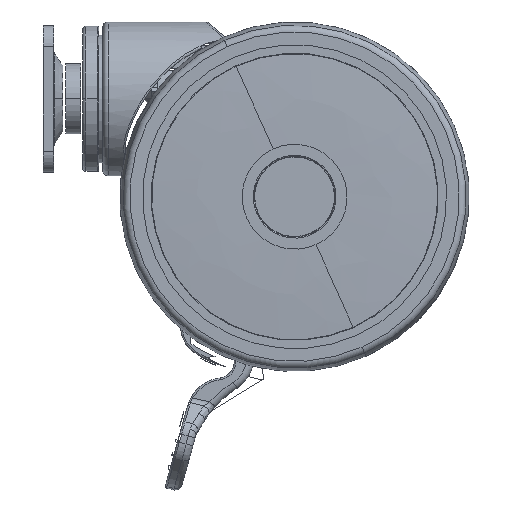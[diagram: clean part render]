
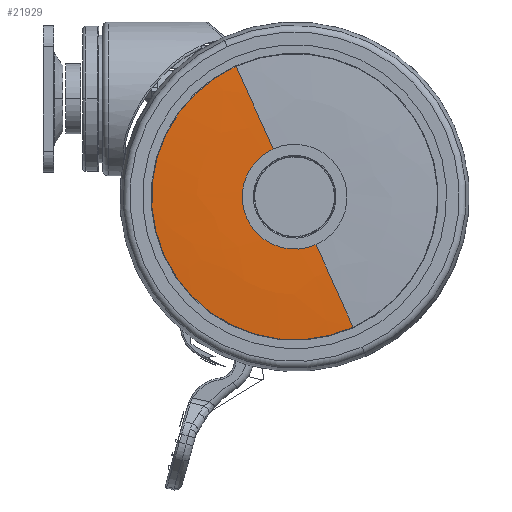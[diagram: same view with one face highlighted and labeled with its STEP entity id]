
A CAD part, left-side view. The second image highlights one B-rep face of the part: STEP entity #21929.
In plain terms, the highlighted free-form (B-spline) face has degree [3, 3] with [7, 4] control points.
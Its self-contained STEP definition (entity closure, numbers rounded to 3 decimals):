
#21547=CARTESIAN_POINT('',(-31.,0.,0.));
#21548=DIRECTION('',(-1.,0.,0.));
#21549=DIRECTION('',(0.,0.409,0.913));
#21550=AXIS2_PLACEMENT_3D('',#21547,#21548,#21549);
#21602=CARTESIAN_POINT('',(-30.204,0.,0.));
#21603=DIRECTION('',(1.,0.,0.));
#21604=DIRECTION('',(0.,-0.409,-0.913));
#21605=AXIS2_PLACEMENT_3D('',#21602,#21603,#21604);
#21607=CARTESIAN_POINT('',(326.9,6.954,15.513));
#21608=DIRECTION('',(0.,-0.913,0.409));
#21609=DIRECTION('',(-0.998,0.027,0.061));
#21610=AXIS2_PLACEMENT_3D('',#21607,#21608,#21609);
#21612=CARTESIAN_POINT('',(326.9,-6.954,-15.513));
#21613=DIRECTION('',(0.,0.913,-0.409));
#21614=DIRECTION('',(-0.998,-0.027,-0.061));
#21615=AXIS2_PLACEMENT_3D('',#21612,#21613,#21614);
#21677=CARTESIAN_POINT('',(-31.,6.136,13.688));
#21678=CARTESIAN_POINT('',(-31.,-6.136,-13.688));
#21679=VERTEX_POINT('',#21677);
#21680=VERTEX_POINT('',#21678);
#21681=CARTESIAN_POINT('',(-30.204,16.743,
37.352));
#21682=CARTESIAN_POINT('',(-30.204,-16.743,
-37.352));
#21683=VERTEX_POINT('',#21681);
#21684=VERTEX_POINT('',#21682);
#21893=CARTESIAN_POINT('',(-30.997,-6.741,
-12.816));
#21894=CARTESIAN_POINT('',(-31.06,-10.93,
-20.78));
#21895=CARTESIAN_POINT('',(-30.784,-15.117,
-28.74));
#21896=CARTESIAN_POINT('',(-30.169,-19.296,
-36.686));
#21897=CARTESIAN_POINT('',(-30.997,1.146,
-16.965));
#21898=CARTESIAN_POINT('',(-31.06,1.858,
-27.506));
#21899=CARTESIAN_POINT('',(-30.784,2.569,
-38.043));
#21900=CARTESIAN_POINT('',(-30.169,3.28,
-48.561));
#21901=CARTESIAN_POINT('',(-30.997,9.569,
-14.055));
#21902=CARTESIAN_POINT('',(-31.06,15.515,
-22.789));
#21903=CARTESIAN_POINT('',(-30.784,21.459,
-31.519));
#21904=CARTESIAN_POINT('',(-30.169,27.391,
-40.232));
#21905=CARTESIAN_POINT('',(-30.997,13.214,
-5.923));
#21906=CARTESIAN_POINT('',(-31.06,21.425,
-9.604));
#21907=CARTESIAN_POINT('',(-30.784,29.633,
-13.283));
#21908=CARTESIAN_POINT('',(-30.169,37.825,
-16.955));
#21909=CARTESIAN_POINT('',(-30.997,16.859,
2.209));
#21910=CARTESIAN_POINT('',(-31.06,27.335,
3.581));
#21911=CARTESIAN_POINT('',(-30.784,37.807,
4.953));
#21912=CARTESIAN_POINT('',(-30.169,48.259,
6.323));
#21913=CARTESIAN_POINT('',(-30.997,13.427,
10.433));
#21914=CARTESIAN_POINT('',(-31.06,21.77,
16.915));
#21915=CARTESIAN_POINT('',(-30.784,30.109,
23.395));
#21916=CARTESIAN_POINT('',(-30.169,38.433,
29.863));
#21917=CARTESIAN_POINT('',(-30.997,5.082,
13.56));
#21918=CARTESIAN_POINT('',(-31.06,8.24,
21.986));
#21919=CARTESIAN_POINT('',(-30.784,11.396,
30.408));
#21920=CARTESIAN_POINT('',(-30.169,14.546,
38.815));
#21921=(BOUNDED_SURFACE()B_SPLINE_SURFACE(3,3,((#21893,#21894,#21895,#21896),(
#21897,#21898,#21899,#21900),(#21901,#21902,#21903,#21904),(#21905,#21906,
#21907,#21908),(#21909,#21910,#21911,#21912),(#21913,#21914,#21915,#21916),(
#21917,#21918,#21919,#21920)),.UNSPECIFIED.,.F.,.F.,.F.)B_SPLINE_SURFACE_WITH_KNOTS((4,3,4),(4,4),(0.,1.,2.),(0.,1.),.UNSPECIFIED.)GEOMETRIC_REPRESENTATION_ITEM()RATIONAL_B_SPLINE_SURFACE(((1.188,1.187,
1.187,1.188),(0.938,0.937,
0.937,0.938),(0.938,0.937,
0.937,0.938),(1.188,1.187,
1.187,1.188),(0.938,0.937,
0.937,0.938),(0.938,0.937,
0.937,0.938),(1.188,1.187,
1.187,1.188)))REPRESENTATION_ITEM('')SURFACE());
#21923=ORIENTED_EDGE('',*,*,#21922,.T.);
#21924=ORIENTED_EDGE('',*,*,#21881,.T.);
#21925=ORIENTED_EDGE('',*,*,#21760,.T.);
#21926=ORIENTED_EDGE('',*,*,#21878,.F.);
#21927=EDGE_LOOP('',(#21923,#21924,#21925,#21926));
#21928=FACE_OUTER_BOUND('',#21927,.F.);
#21551=CIRCLE('',#21550,15.);
#21606=CIRCLE('',#21605,40.933);
#21611=CIRCLE('',#21610,357.906);
#21616=CIRCLE('',#21615,357.906);
#21760=EDGE_CURVE('',#21679,#21680,#21551,.T.);
#21878=EDGE_CURVE('',#21684,#21680,#21616,.T.);
#21881=EDGE_CURVE('',#21683,#21679,#21611,.T.);
#21922=EDGE_CURVE('',#21684,#21683,#21606,.T.);
#21929=ADVANCED_FACE('',(#21928),#21921,.T.);
